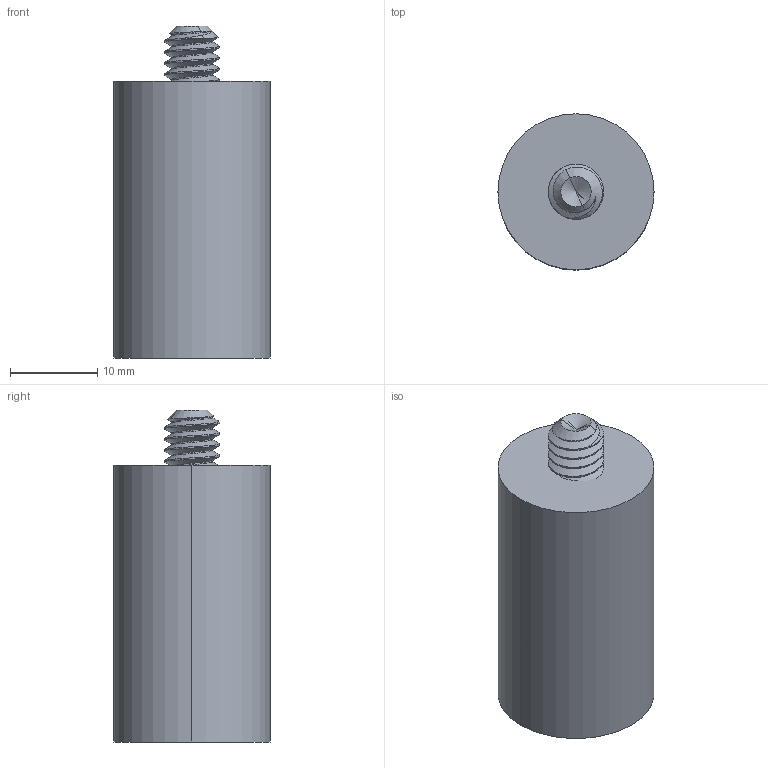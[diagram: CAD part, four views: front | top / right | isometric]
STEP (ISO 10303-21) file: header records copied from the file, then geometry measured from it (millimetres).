
FILE_DESCRIPTION (( 'STEP AP203' ), '1' );
FILE_NAME ('FDPCK-.5PULTRUD-STUD-1-4-20-S.step', '2019-09-11T18:21:50', ( 'ydmin' ), ( '' ), 'SwSTEP 2.0', 'SolidWorks 2017', '' );
FILE_SCHEMA (( 'CONFIG_CONTROL_DESIGN' ));
Length unit declared in the file: inch
Products named in the file (1): FDPCK-.5PULTRUD-STUD-1-4-20-S
Bounding box: 17.91 x 17.91 x 38.1 mm (x, y, z)
Volume: 5481.6 mm3; surface area: 3837.6 mm2
Topology: 2 solids, 2 shells, 70 faces, 175 edges, 106 vertices
Faces by surface type: cylinder 34, cone 18, plane 15, bspline 3
Entity records: 4510 total; most frequent: CARTESIAN_POINT 2989, ORIENTED_EDGE 342, DIRECTION 260, EDGE_CURVE 171, VERTEX_POINT 106, AXIS2_PLACEMENT_3D 99, EDGE_LOOP 73, FACE_OUTER_BOUND 70
